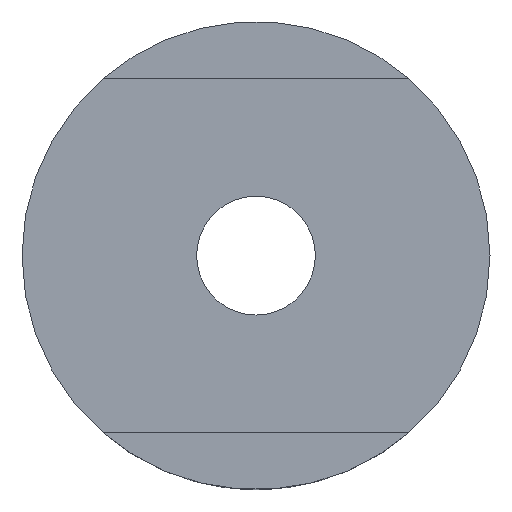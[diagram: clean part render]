
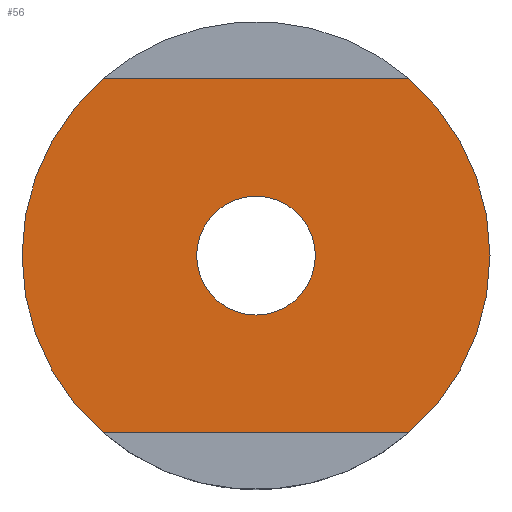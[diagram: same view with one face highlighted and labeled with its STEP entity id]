
A CAD part, front view. The second image highlights one B-rep face of the part: STEP entity #56.
In plain terms, the highlighted planar face has unit normal (0, -1, 0).
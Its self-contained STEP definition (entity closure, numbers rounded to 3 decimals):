
#56 = ADVANCED_FACE( '', ( #112, #113 ), #114, .T. );
#112 = FACE_BOUND( '', #161, .T. );
#113 = FACE_OUTER_BOUND( '', #162, .T. );
#114 = PLANE( '', #163 );
#161 = EDGE_LOOP( '', ( #240 ) );
#162 = EDGE_LOOP( '', ( #241, #242, #243, #244 ) );
#163 = AXIS2_PLACEMENT_3D( '', #245, #246, #247 );
#240 = ORIENTED_EDGE( '', *, *, #281, .T. );
#241 = ORIENTED_EDGE( '', *, *, #271, .T. );
#242 = ORIENTED_EDGE( '', *, *, #266, .T. );
#243 = ORIENTED_EDGE( '', *, *, #273, .F. );
#244 = ORIENTED_EDGE( '', *, *, #276, .F. );
#245 = CARTESIAN_POINT( '', ( 68.396, 10., 12.5 ) );
#246 = DIRECTION( '', ( 0., -1., 0. ) );
#247 = DIRECTION( '', ( 0., 0., -1. ) );
#266 = EDGE_CURVE( '', #286, #289, #304, .T. );
#271 = EDGE_CURVE( '', #311, #286, #312, .T. );
#273 = EDGE_CURVE( '', #313, #289, #315, .T. );
#276 = EDGE_CURVE( '', #311, #313, #318, .T. );
#281 = EDGE_CURVE( '', #324, #324, #325, .T. );
#286 = VERTEX_POINT( '', #330 );
#289 = VERTEX_POINT( '', #334 );
#304 = LINE( '', #351, #352 );
#311 = VERTEX_POINT( '', #360 );
#312 = CIRCLE( '', #361, 16.5 );
#313 = VERTEX_POINT( '', #362 );
#315 = CIRCLE( '', #364, 16.5 );
#318 = LINE( '', #368, #369 );
#324 = VERTEX_POINT( '', #376 );
#325 = CIRCLE( '', #377, 4.188 );
#330 = CARTESIAN_POINT( '', ( 10.77, 10., 12.5 ) );
#334 = CARTESIAN_POINT( '', ( -10.77, 10., 12.5 ) );
#351 = CARTESIAN_POINT( '', ( 68.396, 10., 12.5 ) );
#352 = VECTOR( '', #399, 1000. );
#360 = CARTESIAN_POINT( '', ( 10.77, 10., -12.5 ) );
#361 = AXIS2_PLACEMENT_3D( '', #404, #405, #406 );
#362 = CARTESIAN_POINT( '', ( -10.77, 10., -12.5 ) );
#364 = AXIS2_PLACEMENT_3D( '', #410, #411, #412 );
#368 = CARTESIAN_POINT( '', ( 68.396, 10., -12.5 ) );
#369 = VECTOR( '', #414, 1000. );
#376 = CARTESIAN_POINT( '', ( 0., 10., -4.188 ) );
#377 = AXIS2_PLACEMENT_3D( '', #419, #420, #421 );
#399 = DIRECTION( '', ( -1., 0., 0. ) );
#404 = CARTESIAN_POINT( '', ( 0., 10., 0. ) );
#405 = DIRECTION( '', ( 0., -1., 0. ) );
#406 = DIRECTION( '', ( 0., 0., -1. ) );
#410 = CARTESIAN_POINT( '', ( 0., 10., 0. ) );
#411 = DIRECTION( '', ( 0., 1., 0. ) );
#412 = DIRECTION( '', ( 0., 0., 1. ) );
#414 = DIRECTION( '', ( -1., 0., 0. ) );
#419 = CARTESIAN_POINT( '', ( 0., 10., 0. ) );
#420 = DIRECTION( '', ( 0., 1., 0. ) );
#421 = DIRECTION( '', ( 0., 0., -1. ) );
